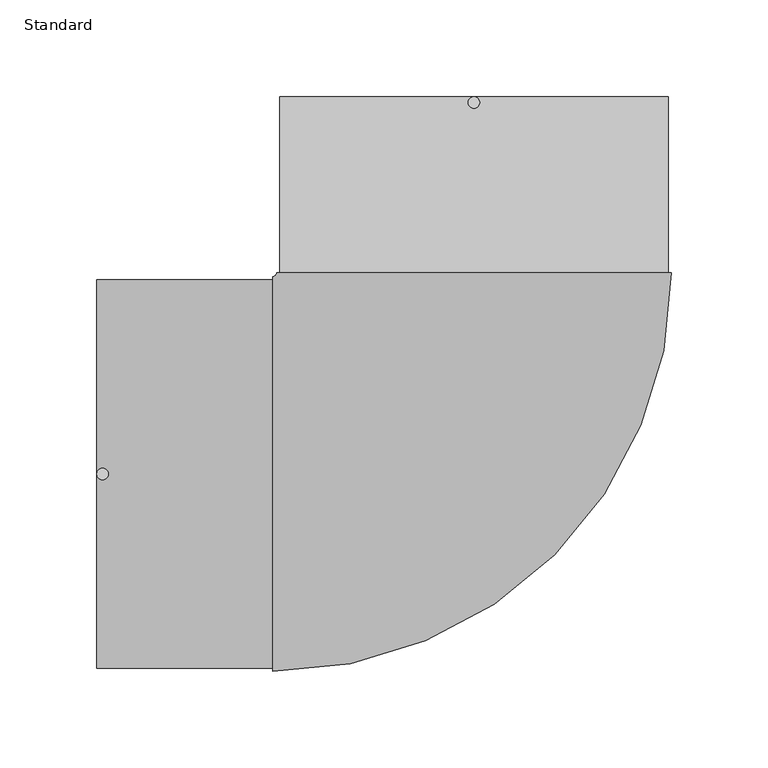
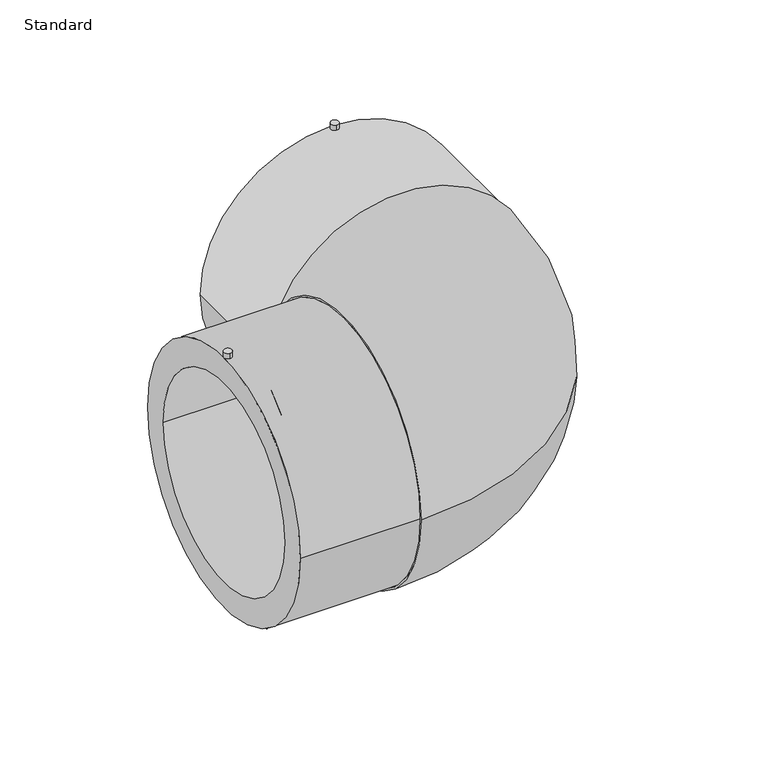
"""IFC4 building model written with IfcOpenShell, lengths in millimetres: pipe fitting geometry, EGB_VASEN_ PPR_Codo electrosoldable 90 WXRD200_Codo electrosoldable 45 WXRD220 : Standard."""

from ifc_helpers import new_model, si_unit, point, frame, frame_2d, origin, place, context, project, spatial, polyline, circle_curve, ellipse_curve, trimmed, segment, composite_curve, outline, extrude, source, transform, mapped, element, save
from ifc_brep_helpers import plane_surface, cylinder_surface, revolved_surface, advanced_brep


def standard_6d11c56f(model_context):
    return source(origin(), model_context, "Body", "SolidModel", [
        advanced_brep(
        [(-195.0, -100.5, 0.0), (-195.0, 100.5, 0.0), (-195.0, -80.0, 0.0), (-195.0, 80.0, 0.0), (-104.0, -100.5, 0.0), (-104.0, 100.5, 0.0), (-104.0, -80.0, 0.0), (-104.0, 80.0, 0.0), (-104.0, -102.0, 0.0), (-104.0, 102.0, 0.0), (102.0, 104.0, 0.0), (-102.0, 104.0, 0.0), (100.5, 104.0, 0.0), (-100.5, 104.0, 0.0), (80.0, 104.0, 0.0), (-80.0, 104.0, 0.0), (100.5, 195.0, 0.0), (-100.5, 195.0, 0.0), (80.0, 195.0, 0.0), (-80.0, 195.0, 0.0)],
        [
            (0, 1, circle_curve(frame((-195.0, 0.0, 0.0), z_axis=(-1.0, 0.0, 0.0), x_axis=(0.0, 1.0, 0.0)), 100.5)),
            (1, 0, circle_curve(frame((-195.0, 0.0, 0.0), z_axis=(-1.0, 0.0, 0.0), x_axis=(0.0, 1.0, 0.0)), 100.5)),
            (2, 3, circle_curve(frame((-195.0, 0.0, 0.0), z_axis=(1.0, 0.0, 0.0), x_axis=(0.0, 1.0, 0.0)), 80.0)),
            (3, 2, circle_curve(frame((-195.0, 0.0, 0.0), z_axis=(1.0, 0.0, 0.0), x_axis=(0.0, 1.0, 0.0)), 80.0)),
            (0, 4),
            (4, 5, circle_curve(frame((-104.0, 0.0, 0.0), z_axis=(-1.0, 0.0, 0.0), x_axis=(0.0, 1.0, 0.0)), 100.5)),
            (5, 1),
            (5, 4, circle_curve(frame((-104.0, 0.0, 0.0), z_axis=(-1.0, 0.0, 0.0), x_axis=(0.0, 1.0, 0.0)), 100.5)),
            (2, 6),
            (6, 7, circle_curve(frame((-104.0, 0.0, 0.0), z_axis=(1.0, 0.0, 0.0), x_axis=(0.0, 1.0, 0.0)), 80.0)),
            (7, 3),
            (7, 6, circle_curve(frame((-104.0, 0.0, 0.0), z_axis=(1.0, 0.0, 0.0), x_axis=(0.0, 1.0, 0.0)), 80.0)),
            (8, 9, circle_curve(frame((-104.0, 0.0, 0.0), z_axis=(-1.0, 0.0, 0.0), x_axis=(0.0, 1.0, 0.0)), 102.0)),
            (9, 8, circle_curve(frame((-104.0, 0.0, 0.0), z_axis=(-1.0, 0.0, 0.0), x_axis=(0.0, 1.0, 0.0)), 102.0)),
            (10, 11, circle_curve(frame((0.0, 104.0, 0.0), z_axis=(0.0, 1.0, 0.0), x_axis=(-1.0, 0.0, 0.0)), 102.0)),
            (11, 10, circle_curve(frame((0.0, 104.0, 0.0), z_axis=(0.0, 1.0, 0.0), x_axis=(-1.0, 0.0, 0.0)), 102.0)),
            (12, 13, circle_curve(frame((0.0, 104.0, 0.0), z_axis=(0.0, -1.0, 0.0), x_axis=(-1.0, 0.0, 0.0)), 100.5)),
            (13, 12, circle_curve(frame((0.0, 104.0, 0.0), z_axis=(0.0, -1.0, 0.0), x_axis=(-1.0, 0.0, 0.0)), 100.5)),
            (14, 15, circle_curve(frame((0.0, 104.0, 0.0), z_axis=(0.0, 1.0, 0.0), x_axis=(-1.0, 0.0, 0.0)), 80.0)),
            (15, 14, circle_curve(frame((0.0, 104.0, 0.0), z_axis=(0.0, 1.0, 0.0), x_axis=(-1.0, 0.0, 0.0)), 80.0)),
            (8, 10, circle_curve(frame((-104.0, 104.0, 0.0), z_axis=(0.0, 0.0, 1.0), x_axis=(0.0, -1.0, 0.0)), 206.0)),
            (11, 9, circle_curve(frame((-104.0, 104.0, 0.0), z_axis=(0.0, 0.0, -1.0), x_axis=(0.0, -1.0, 0.0)), 2.0)),
            (16, 17, circle_curve(frame((0.0, 195.0, 0.0), z_axis=(0.0, 1.0, 0.0), x_axis=(-1.0, 0.0, 0.0)), 100.5)),
            (17, 16, circle_curve(frame((0.0, 195.0, 0.0), z_axis=(0.0, 1.0, 0.0), x_axis=(-1.0, 0.0, 0.0)), 100.5)),
            (18, 19, circle_curve(frame((0.0, 195.0, 0.0), z_axis=(0.0, -1.0, 0.0), x_axis=(-1.0, 0.0, 0.0)), 80.0)),
            (19, 18, circle_curve(frame((0.0, 195.0, 0.0), z_axis=(0.0, -1.0, 0.0), x_axis=(-1.0, 0.0, 0.0)), 80.0)),
            (17, 13),
            (12, 16),
            (19, 15),
            (14, 18),
        ],
        [
            plane_surface(frame((-195.0, 0.0, 0.0), z_axis=(-1.0, 0.0, 0.0), x_axis=(0.0, 0.0, 1.0))),
            cylinder_surface(frame((-195.0, 0.0, 0.0), z_axis=(-1.0, 0.0, 0.0), x_axis=(0.0, 1.0, 0.0)), 100.5),
            revolved_surface(polyline([(-104.0, 80.0, 0.0), (-195.0, 80.0, 0.0)]), (-195.0, 0.0, 0.0), (1.0, 0.0, 0.0)),
            plane_surface(frame((-104.0, 0.0, 0.0), z_axis=(-1.0, 0.0, 0.0), x_axis=(0.0, 0.0, 1.0))),
            plane_surface(frame((0.0, 104.0, 0.0), z_axis=(0.0, 1.0, 0.0), x_axis=(0.0, 0.0, 1.0))),
            revolved_surface(trimmed(ellipse_curve(frame((-104.0, 0.0, 0.0), z_axis=(-1.0, 0.0, 0.0), x_axis=(0.0, 1.0, 0.0)), 102.0, 102.0), [point((-104.0, -102.0, 0.0))], [point((-104.0, 102.0, 0.0))], True, "CARTESIAN"), (-104.0, 104.0, 0.0), (0.0, 0.0, 1.0)),
            revolved_surface(trimmed(ellipse_curve(frame((-104.0, 0.0, 0.0), z_axis=(-1.0, 0.0, 0.0), x_axis=(0.0, 1.0, 0.0)), 102.0, 102.0), [point((-104.0, 102.0, 0.0))], [point((-104.0, -102.0, 0.0))], True, "CARTESIAN"), (-104.0, 104.0, 0.0), (0.0, 0.0, 1.0)),
            plane_surface(frame((0.0, 195.0, 0.0), z_axis=(0.0, 1.0, 0.0), x_axis=(0.0, 0.0, 1.0))),
            cylinder_surface(frame((0.0, 104.0, 0.0), z_axis=(0.0, -1.0, 0.0), x_axis=(-1.0, 0.0, 0.0)), 100.5),
            revolved_surface(polyline([(-80.0, 195.0, 0.0), (-80.0, 104.0, 0.0)]), (0.0, 104.0, 0.0), (0.0, 1.0, 0.0)),
        ],
        [
            (0, [[1, 2], [3, 4]]),
            (1, [[-1, 5, 6, 7]]),
            (1, [[-2, -7, 8, -5]]),
            (2, [[-3, 9, 10, 11]]),
            (2, [[-4, -11, 12, -9]]),
            (3, [[-10, -12]]),
            (3, [[13, 14], [-6, -8]]),
            (4, [[15, 16], [17, 18]]),
            (4, [[19, 20]]),
            (5, [[-13, 21, -16, 22]]),
            (6, [[-14, -22, -15, -21]]),
            (7, [[23, 24], [25, 26]]),
            (8, [[-24, 27, -17, 28]]),
            (8, [[-23, -28, -18, -27]]),
            (9, [[-26, 29, -19, 30]]),
            (9, [[-25, -30, -20, -29]]),
        ],
    ),
        extrude(outline(composite_curve([segment(trimmed(circle_curve(frame_2d((0.0, 192.0)), 3.0), [point((0.0, 189.0))], [point((0.0, 195.0))], False, "CARTESIAN"), True, "CONTINUOUS"), segment(trimmed(circle_curve(frame_2d((0.0, 192.0)), 3.0), [point((0.0, 195.0))], [point((0.0, 189.0))], False, "CARTESIAN"), True, "CONTINUOUS")], self_intersect=False)), frame((0.0, 0.0, 81.0), z_axis=(0.0, 0.0, 1.0), x_axis=(1.0, 0.0, 0.0)), (0.0, 0.0, 1.0), 24.0),
        extrude(outline(composite_curve([segment(trimmed(circle_curve(frame_2d((-192.0, 0.0)), 3.0), [point((-192.0, -3.0))], [point((-192.0, 3.0))], False, "CARTESIAN"), True, "CONTINUOUS"), segment(trimmed(circle_curve(frame_2d((-192.0, 0.0)), 3.0), [point((-192.0, 3.0))], [point((-192.0, -3.0))], False, "CARTESIAN"), True, "CONTINUOUS")], self_intersect=False)), frame((0.0, 0.0, 81.0), z_axis=(0.0, 0.0, 1.0), x_axis=(1.0, 0.0, 0.0)), (0.0, 0.0, 1.0), 24.0),
    ])


if __name__ == "__main__":
    model = new_model("IFC4")
    model_context = context("Model", 3, world=origin())
    ifc_project = project(units=[si_unit("LENGTHUNIT", "METRE", prefix="MILLI")], contexts=[model_context])
    site = spatial("IfcSite", under=ifc_project)
    building = spatial("IfcBuilding", under=site)
    placement = place(None, origin())
    standard_shape = standard_6d11c56f(model_context)
    element("IfcPipeFitting", 1, ObjectType="EGB_VASEN_ PPR_Codo electrosoldable 90 WXRD200_Codo electrosoldable 45 WXRD220 : Standard", at=placement, inside=building, context=model_context, shape_type="MappedRepresentation", body=[
        mapped(standard_shape, transform((0.0, 0.0, 0.0), x_axis=(1.0, 0.0, 0.0), y_axis=(0.0, 1.0, 0.0), z_axis=(0.0, 0.0, 1.0))),
    ])
    save(model, "model.ifc")
